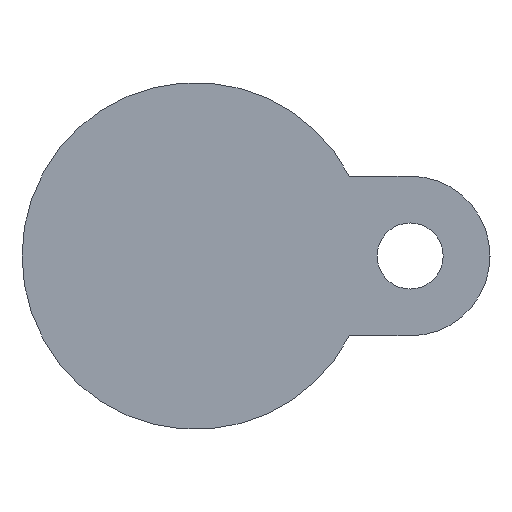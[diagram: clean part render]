
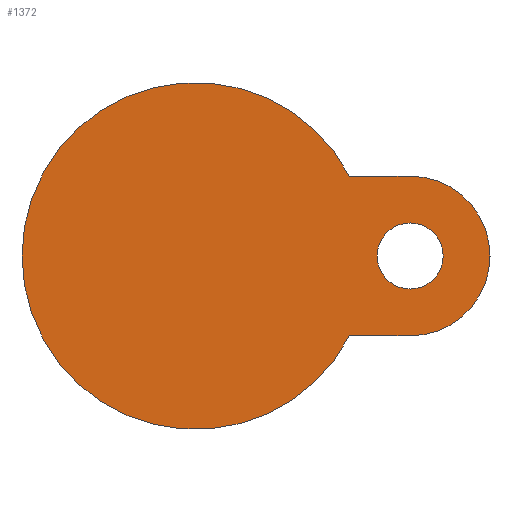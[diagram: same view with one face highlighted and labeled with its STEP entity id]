
A CAD part, front view. The second image highlights one B-rep face of the part: STEP entity #1372.
In plain terms, the highlighted planar face has unit normal (0, -1, 0).
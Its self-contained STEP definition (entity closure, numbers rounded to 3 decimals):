
#1 = VERTEX_POINT ( 'NONE', #2960 ) ;
#112 = AXIS2_PLACEMENT_3D ( 'NONE', #4075, #1966, #4495 ) ;
#115 = CIRCLE ( 'NONE', #2584, 6. ) ;
#356 = DIRECTION ( 'NONE',  ( 1., 0., 0. ) ) ;
#439 = CIRCLE ( 'NONE', #3272, 6. ) ;
#600 = EDGE_LOOP ( 'NONE', ( #1612, #3180 ) ) ;
#616 = CIRCLE ( 'NONE', #1666, 31.5 ) ;
#702 = DIRECTION ( 'NONE',  ( -1., 0., 0. ) ) ;
#797 = DIRECTION ( 'NONE',  ( 1., 0., 0. ) ) ;
#821 = DIRECTION ( 'NONE',  ( 1., 0., 0. ) ) ;
#835 = CIRCLE ( 'NONE', #4283, 31.5 ) ;
#877 = CARTESIAN_POINT ( 'NONE',  ( 39., -15., 0. ) ) ;
#886 = DIRECTION ( 'NONE',  ( 1., 0., 0. ) ) ;
#1002 = EDGE_CURVE ( 'NONE', #4309, #4859, #1897, .T. ) ;
#1038 = EDGE_CURVE ( 'NONE', #4571, #4309, #4634, .T. ) ;
#1108 = AXIS2_PLACEMENT_3D ( 'NONE', #877, #2562, #821 ) ;
#1132 = CARTESIAN_POINT ( 'NONE',  ( 45., -15., 0. ) ) ;
#1317 = DIRECTION ( 'NONE',  ( 0., -1., 0. ) ) ;
#1332 = EDGE_CURVE ( 'NONE', #1507, #4624, #835, .T. ) ;
#1372 = ADVANCED_FACE ( 'NONE', ( #5324, #2410 ), #2808, .T. ) ;
#1394 = CARTESIAN_POINT ( 'NONE',  ( 39., -15., 14.5 ) ) ;
#1507 = VERTEX_POINT ( 'NONE', #4177 ) ;
#1573 = DIRECTION ( 'NONE',  ( 0., -1., 0. ) ) ;
#1612 = ORIENTED_EDGE ( 'NONE', *, *, #4390, .F. ) ;
#1666 = AXIS2_PLACEMENT_3D ( 'NONE', #2035, #3689, #2850 ) ;
#1687 = ORIENTED_EDGE ( 'NONE', *, *, #1038, .T. ) ;
#1897 = CIRCLE ( 'NONE', #4990, 14.5 ) ;
#1917 = CARTESIAN_POINT ( 'NONE',  ( 16.055, -15., 14.5 ) ) ;
#1941 = VECTOR ( 'NONE', #4497, 1000. ) ;
#1966 = DIRECTION ( 'NONE',  ( 0., -1., 0. ) ) ;
#2020 = ORIENTED_EDGE ( 'NONE', *, *, #2695, .T. ) ;
#2035 = CARTESIAN_POINT ( 'NONE',  ( 0., -15., 0. ) ) ;
#2179 = EDGE_CURVE ( 'NONE', #5103, #3454, #115, .T. ) ;
#2204 = CARTESIAN_POINT ( 'NONE',  ( 53.5, -15., 0. ) ) ;
#2382 = CARTESIAN_POINT ( 'NONE',  ( 0., -15., 0. ) ) ;
#2410 = FACE_BOUND ( 'NONE', #600, .T. ) ;
#2412 = LINE ( 'NONE', #1917, #1941 ) ;
#2562 = DIRECTION ( 'NONE',  ( 0., -1., 0. ) ) ;
#2584 = AXIS2_PLACEMENT_3D ( 'NONE', #4250, #4743, #2638 ) ;
#2638 = DIRECTION ( 'NONE',  ( 1., 0., 0. ) ) ;
#2695 = EDGE_CURVE ( 'NONE', #4859, #4624, #2412, .T. ) ;
#2808 = PLANE ( 'NONE',  #112 ) ;
#2850 = DIRECTION ( 'NONE',  ( -1., 0., 0. ) ) ;
#2931 = EDGE_CURVE ( 'NONE', #1, #4571, #5207, .T. ) ;
#2960 = CARTESIAN_POINT ( 'NONE',  ( 27.964, -15., -14.5 ) ) ;
#3106 = CARTESIAN_POINT ( 'NONE',  ( 39., -15., -14.5 ) ) ;
#3180 = ORIENTED_EDGE ( 'NONE', *, *, #2179, .F. ) ;
#3233 = ORIENTED_EDGE ( 'NONE', *, *, #1332, .F. ) ;
#3243 = CARTESIAN_POINT ( 'NONE',  ( 39., -15., 0. ) ) ;
#3272 = AXIS2_PLACEMENT_3D ( 'NONE', #3243, #1573, #356 ) ;
#3454 = VERTEX_POINT ( 'NONE', #1132 ) ;
#3641 = DIRECTION ( 'NONE',  ( 0., 1., 0. ) ) ;
#3689 = DIRECTION ( 'NONE',  ( 0., 1., 0. ) ) ;
#3949 = CARTESIAN_POINT ( 'NONE',  ( 39., -15., -14.5 ) ) ;
#4035 = CARTESIAN_POINT ( 'NONE',  ( 27.964, -15., 14.5 ) ) ;
#4074 = EDGE_LOOP ( 'NONE', ( #5362, #4273, #1687, #5192, #2020, #3233 ) ) ;
#4075 = CARTESIAN_POINT ( 'NONE',  ( 0., -15., 0. ) ) ;
#4177 = CARTESIAN_POINT ( 'NONE',  ( -31.5, -15., 0. ) ) ;
#4250 = CARTESIAN_POINT ( 'NONE',  ( 39., -15., 0. ) ) ;
#4273 = ORIENTED_EDGE ( 'NONE', *, *, #2931, .T. ) ;
#4283 = AXIS2_PLACEMENT_3D ( 'NONE', #2382, #3641, #702 ) ;
#4309 = VERTEX_POINT ( 'NONE', #2204 ) ;
#4341 = EDGE_CURVE ( 'NONE', #1, #1507, #616, .T. ) ;
#4390 = EDGE_CURVE ( 'NONE', #3454, #5103, #439, .T. ) ;
#4488 = CARTESIAN_POINT ( 'NONE',  ( 33., -15., 0. ) ) ;
#4495 = DIRECTION ( 'NONE',  ( 1., 0., 0. ) ) ;
#4497 = DIRECTION ( 'NONE',  ( -1., 0., 0. ) ) ;
#4571 = VERTEX_POINT ( 'NONE', #3949 ) ;
#4590 = CARTESIAN_POINT ( 'NONE',  ( 39., -15., 0. ) ) ;
#4624 = VERTEX_POINT ( 'NONE', #4035 ) ;
#4634 = CIRCLE ( 'NONE', #1108, 14.5 ) ;
#4743 = DIRECTION ( 'NONE',  ( 0., -1., 0. ) ) ;
#4859 = VERTEX_POINT ( 'NONE', #1394 ) ;
#4990 = AXIS2_PLACEMENT_3D ( 'NONE', #4590, #1317, #797 ) ;
#5032 = VECTOR ( 'NONE', #886, 1000. ) ;
#5103 = VERTEX_POINT ( 'NONE', #4488 ) ;
#5192 = ORIENTED_EDGE ( 'NONE', *, *, #1002, .T. ) ;
#5207 = LINE ( 'NONE', #3106, #5032 ) ;
#5324 = FACE_OUTER_BOUND ( 'NONE', #4074, .T. ) ;
#5362 = ORIENTED_EDGE ( 'NONE', *, *, #4341, .F. ) ;
